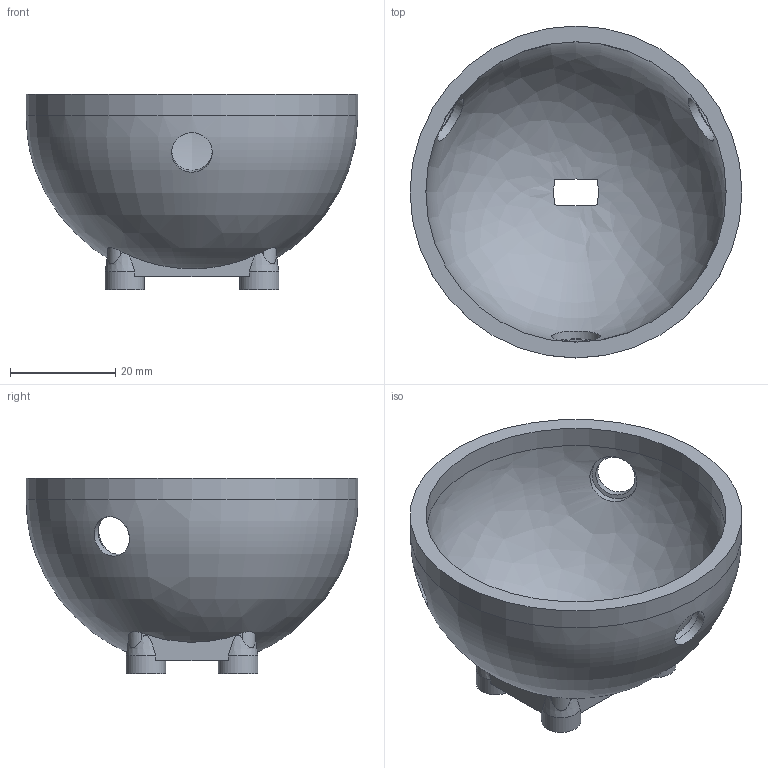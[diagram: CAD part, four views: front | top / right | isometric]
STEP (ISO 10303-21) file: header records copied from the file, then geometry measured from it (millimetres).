
FILE_DESCRIPTION(('Open CASCADE Model'),'2;1');
FILE_NAME('Open CASCADE Shape Model','2026-05-31T19:43:39',('Author'),( 'Open CASCADE'),'Open CASCADE STEP processor 7.6','Open CASCADE 7.6' ,'Unknown');
FILE_SCHEMA(('AP242_MANAGED_MODEL_BASED_3D_ENGINEERING_MIM_LF. {1 0 10303 442 1 1 4 }'));
Length unit declared in the file: millimetre
Products named in the file (1): Open CASCADE STEP translator 7.6 10
Bounding box: 63 x 63 x 37.1 mm (x, y, z)
Volume: 19761.9 mm3; surface area: 14221.2 mm2
Topology: 1 solids, 1 shells, 60 faces, 150 edges, 100 vertices
Faces by surface type: plane 26, cylinder 24, bspline 4, cone 4, revolution 2
Full cylindrical faces by diameter (mm): 3.5 x4, 7.5 x4, 7.7 x3, 9.2 x3, 57 x1, 63 x1
Entity records: 8466 total; most frequent: CARTESIAN_POINT 5571, DIRECTION 494, ORIENTED_EDGE 300, PCURVE 300, DEFINITIONAL_REPRESENTATION 300, LINE 230, VECTOR 230, EDGE_CURVE 150
